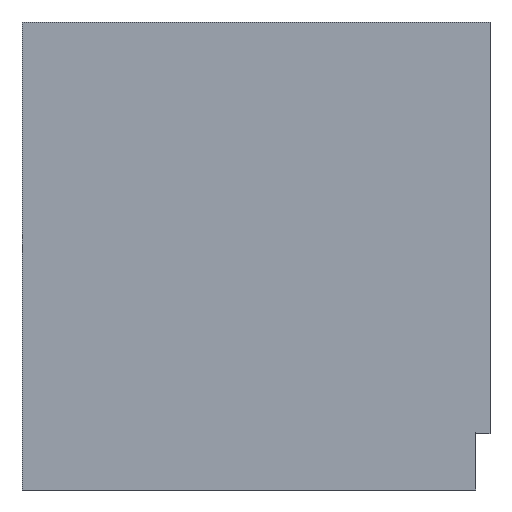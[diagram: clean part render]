
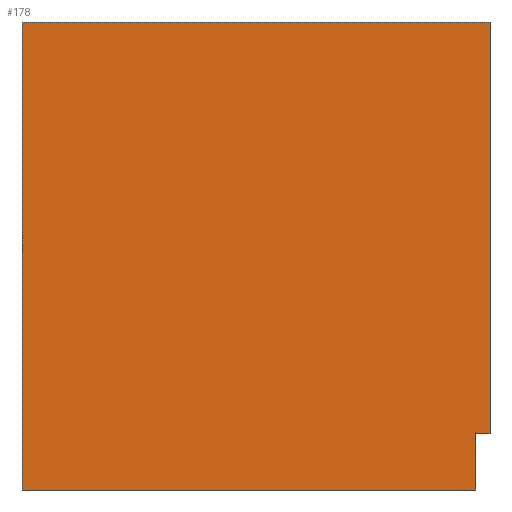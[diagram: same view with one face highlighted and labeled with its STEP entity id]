
A CAD part, left-side view. The second image highlights one B-rep face of the part: STEP entity #178.
In plain terms, the highlighted planar face has unit normal (-1, 0, 0).
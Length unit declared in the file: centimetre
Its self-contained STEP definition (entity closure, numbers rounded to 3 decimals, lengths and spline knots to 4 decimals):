
#9 = ORIENTED_EDGE ( 'NONE', *, *, #92, .F. ) ;
#17 = VECTOR ( 'NONE', #85, 100. ) ;
#39 = CARTESIAN_POINT ( 'NONE',  ( 0., 0., 119.8999 ) ) ;
#41 = PLANE ( 'NONE',  #346 ) ;
#58 = CARTESIAN_POINT ( 'NONE',  ( 0., 30.2904, 119.8999 ) ) ;
#66 = CARTESIAN_POINT ( 'NONE',  ( 0., 30.2904, 0. ) ) ;
#67 = CARTESIAN_POINT ( 'NONE',  ( 0., 1000., 0. ) ) ;
#82 = DIRECTION ( 'NONE',  ( 0., 0., -1. ) ) ;
#85 = DIRECTION ( 'NONE',  ( 0., 0., -1. ) ) ;
#92 = EDGE_CURVE ( 'NONE', #312, #172, #146, .T. ) ;
#100 = CARTESIAN_POINT ( 'NONE',  ( 0., 30.2904, 119.8999 ) ) ;
#106 = DIRECTION ( 'NONE',  ( 0., -1., 0. ) ) ;
#113 = CARTESIAN_POINT ( 'NONE',  ( 0., 1000., 1000. ) ) ;
#118 = ORIENTED_EDGE ( 'NONE', *, *, #182, .F. ) ;
#126 = VERTEX_POINT ( 'NONE', #113 ) ;
#132 = CARTESIAN_POINT ( 'NONE',  ( 0., 0., 1000. ) ) ;
#135 = EDGE_CURVE ( 'NONE', #428, #218, #239, .T. ) ;
#146 = LINE ( 'NONE', #381, #17 ) ;
#148 = VECTOR ( 'NONE', #235, 100. ) ;
#153 = EDGE_LOOP ( 'NONE', ( #186, #429, #9, #118, #317, #430 ) ) ;
#172 = VERTEX_POINT ( 'NONE', #39 ) ;
#176 = LINE ( 'NONE', #196, #265 ) ;
#178 = ADVANCED_FACE ( 'NONE', ( #256 ), #41, .F. ) ;
#182 = EDGE_CURVE ( 'NONE', #126, #312, #176, .T. ) ;
#185 = EDGE_CURVE ( 'NONE', #335, #218, #369, .T. ) ;
#186 = ORIENTED_EDGE ( 'NONE', *, *, #135, .F. ) ;
#196 = CARTESIAN_POINT ( 'NONE',  ( 0., 1000., 1000. ) ) ;
#203 = CARTESIAN_POINT ( 'NONE',  ( 0., 1000., 1000. ) ) ;
#209 = VECTOR ( 'NONE', #106, 100. ) ;
#218 = VERTEX_POINT ( 'NONE', #66 ) ;
#235 = DIRECTION ( 'NONE',  ( 0., 0., -1. ) ) ;
#239 = LINE ( 'NONE', #379, #311 ) ;
#248 = VECTOR ( 'NONE', #371, 100. ) ;
#256 = FACE_OUTER_BOUND ( 'NONE', #153, .T. ) ;
#265 = VECTOR ( 'NONE', #336, 100. ) ;
#267 = LINE ( 'NONE', #203, #148 ) ;
#275 = EDGE_CURVE ( 'NONE', #126, #335, #267, .T. ) ;
#298 = DIRECTION ( 'NONE',  ( 1., 0., 0. ) ) ;
#311 = VECTOR ( 'NONE', #82, 100. ) ;
#312 = VERTEX_POINT ( 'NONE', #132 ) ;
#317 = ORIENTED_EDGE ( 'NONE', *, *, #275, .T. ) ;
#329 = DIRECTION ( 'NONE',  ( 0., 0., -1. ) ) ;
#330 = LINE ( 'NONE', #100, #248 ) ;
#335 = VERTEX_POINT ( 'NONE', #67 ) ;
#336 = DIRECTION ( 'NONE',  ( 0., -1., 0. ) ) ;
#346 = AXIS2_PLACEMENT_3D ( 'NONE', #406, #298, #329 ) ;
#364 = EDGE_CURVE ( 'NONE', #428, #172, #330, .T. ) ;
#369 = LINE ( 'NONE', #433, #209 ) ;
#371 = DIRECTION ( 'NONE',  ( 0., -1., 0. ) ) ;
#379 = CARTESIAN_POINT ( 'NONE',  ( 0., 30.2904, 119.8999 ) ) ;
#381 = CARTESIAN_POINT ( 'NONE',  ( 0., 0., 1000. ) ) ;
#406 = CARTESIAN_POINT ( 'NONE',  ( 0., 1000., 1000. ) ) ;
#428 = VERTEX_POINT ( 'NONE', #58 ) ;
#429 = ORIENTED_EDGE ( 'NONE', *, *, #364, .T. ) ;
#430 = ORIENTED_EDGE ( 'NONE', *, *, #185, .T. ) ;
#433 = CARTESIAN_POINT ( 'NONE',  ( 0., 1000., 0. ) ) ;
